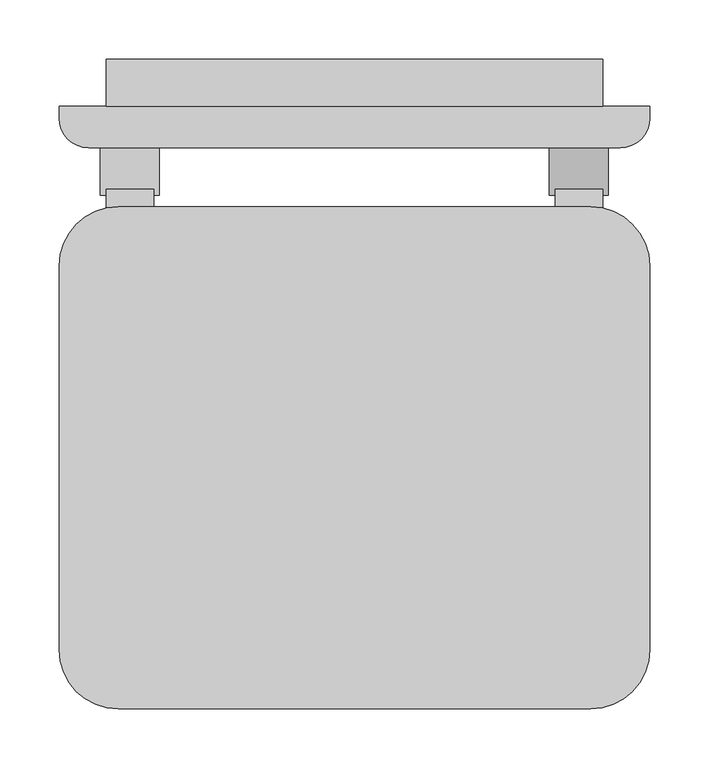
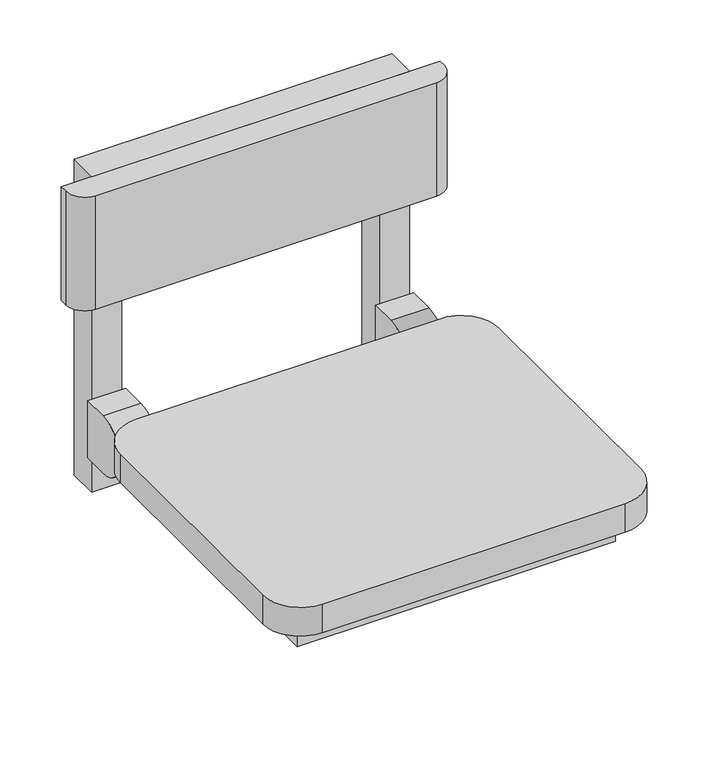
"""IFC4 building model written with IfcOpenShell, lengths in millimetres: proxy geometry, BIMHealth-Seat_Shower-LOD2A-v1 : BIMHealth-Seat_Shower-LOD2A-v1."""

import ifcopenshell
import ifcopenshell.guid

model = None  # the IFC model being written
_history = None  # IfcOwnerHistory: only IFC2X3 demands one
_inside = {}  # id of a spatial element -> (the spatial element, [elements in it])
_under = {}  # id of a project, library or spatial element -> (it, [spatial elements below it])
_declared = {}  # id of a project -> (the project, [libraries it declares])
_typed = {}  # id of a type object -> (the type object, [elements of that type])
_made_of = {}  # id of a material, layer set ... -> (it, [elements and type objects made of it])


def new_model(schema):
    """Start an empty IFC model of exactly this schema.

    Asked for "IFC4X3", IfcOpenShell would pick the latest addendum, in which some entities
    have other attributes; the version numbers below select the first issue.
    IFC2X3 requires an IfcOwnerHistory on every rooted entity: one is made here for all.
    """
    global model, _history
    if schema == "IFC4X3":
        model = ifcopenshell.file(schema_version=(4, 3, 0, 0))
    else:
        model = ifcopenshell.file(schema=schema)
    _inside.clear()
    _under.clear()
    _declared.clear()
    _typed.clear()
    _made_of.clear()
    _history = None
    if model.schema == "IFC2X3":
        org = make("IfcOrganization", Name="unknown")
        user = make(
            "IfcPersonAndOrganization",
            ThePerson=make("IfcPerson", FamilyName="unknown"),
            TheOrganization=org,
        )
        app = make(
            "IfcApplication",
            ApplicationDeveloper=org,
            Version="unknown",
            ApplicationFullName="unknown",
            ApplicationIdentifier="unknown",
        )
        _history = make(
            "IfcOwnerHistory",
            OwningUser=user,
            OwningApplication=app,
            ChangeAction="ADDED",
            CreationDate=0,
        )
    return model


def make(cls, **values):
    """One entity of the class cls with the attributes given. An attribute that is None is left unset."""
    return model.create_entity(
        cls, **{name: value for name, value in values.items() if value is not None}
    )


def rooted(cls, **values):
    """An entity with a GlobalId (a new one), such as an element, a storey or a relation."""
    return make(cls, GlobalId=ifcopenshell.guid.new(), OwnerHistory=_history, **values)


def si_unit(unit_type, name, prefix=None):
    """IfcSIUnit, for example si_unit("LENGTHUNIT", "METRE", prefix="MILLI")."""
    return make("IfcSIUnit", UnitType=unit_type, Prefix=prefix, Name=name)


def assignment(units):
    """IfcUnitAssignment: the units of a project."""
    return None if units is None else make("IfcUnitAssignment", Units=units)


def point(xyz):
    """IfcCartesianPoint."""
    return None if xyz is None else make("IfcCartesianPoint", Coordinates=xyz)


def direction(xyz):
    """IfcDirection."""
    return None if xyz is None else make("IfcDirection", DirectionRatios=xyz)


def frame(location, z_axis=None, x_axis=None):
    """IfcAxis2Placement3D, a coordinate frame: its origin and axes. An axis left out is left unset."""
    return make(
        "IfcAxis2Placement3D",
        Location=point(location),
        Axis=direction(z_axis),
        RefDirection=direction(x_axis),
    )


def frame_2d(location, x_axis=None):
    """IfcAxis2Placement2D, a coordinate frame in the plane: its origin and x axis."""
    return make(
        "IfcAxis2Placement2D", Location=point(location), RefDirection=direction(x_axis)
    )


def origin():
    """The frame at (0, 0, 0) with its axes left unset."""
    return frame((0.0, 0.0, 0.0))


def place(relative_to, where):
    """IfcLocalPlacement: puts the frame where relative to a parent placement (None: the world)."""
    return make(
        "IfcLocalPlacement", PlacementRelTo=relative_to, RelativePlacement=where
    )


def context(
    kind, dimensions, precision=None, world=None, true_north=None, identifier=None
):
    """IfcGeometricRepresentationContext, for example the 3D "Model" context."""
    return make(
        "IfcGeometricRepresentationContext",
        ContextIdentifier=identifier,
        ContextType=kind,
        CoordinateSpaceDimension=dimensions,
        Precision=precision,
        WorldCoordinateSystem=world,
        TrueNorth=true_north,
    )


def project(units=None, contexts=None):
    """IfcProject with its units and contexts."""
    return rooted(
        "IfcProject",
        Name="project",
        RepresentationContexts=contexts,
        UnitsInContext=assignment(units),
    )


def spatial(cls, under=None, at=None, **own):
    """A site, building, storey or space (cls), placed at a placement, below another one or the project."""
    s = rooted(cls, ObjectPlacement=at, **own)
    if under is not None:
        _under.setdefault(under.id(), (under, []))[1].append(s)
    return s


def polyline(points):
    """IfcPolyline through the points."""
    return make("IfcPolyline", Points=[point(p) for p in points])


def circle_curve(where, radius):
    """IfcCircle in the frame where."""
    return make("IfcCircle", Position=where, Radius=radius)


def trimmed(basis, trim1, trim2, sense, master):
    """IfcTrimmedCurve: the piece of a basis curve between two trims."""
    return make(
        "IfcTrimmedCurve",
        BasisCurve=basis,
        Trim1=trim1,
        Trim2=trim2,
        SenseAgreement=sense,
        MasterRepresentation=master,
    )


def segment(curve, same_sense, transition):
    """IfcCompositeCurveSegment."""
    return make(
        "IfcCompositeCurveSegment",
        Transition=transition,
        SameSense=same_sense,
        ParentCurve=curve,
    )


def composite_curve(segments, self_intersect=None):
    """IfcCompositeCurve: segments joined end to end."""
    return make("IfcCompositeCurve", Segments=segments, SelfIntersect=self_intersect)


def outline(outer, holes=None, kind="AREA"):
    """IfcArbitraryClosedProfileDef: a profile drawn as a closed curve; with holes, ...WithVoids."""
    if holes is None:
        return make("IfcArbitraryClosedProfileDef", ProfileType=kind, OuterCurve=outer)
    return make(
        "IfcArbitraryProfileDefWithVoids",
        ProfileType=kind,
        OuterCurve=outer,
        InnerCurves=holes,
    )


def extrude(swept, where, along, depth):
    """IfcExtrudedAreaSolid: the profile swept, set in the frame where, extruded along a direction by depth."""
    return make(
        "IfcExtrudedAreaSolid",
        SweptArea=swept,
        Position=where,
        ExtrudedDirection=direction(along),
        Depth=depth,
    )


def faces_of(points, faces, orient=None, outer=None):
    """IfcFace entities. A face is a list of loops; a loop is a list of indices into points, from 0.

    orient and outer hold one flag for each loop. By default every Orientation is true, the
    first loop of a face is its IfcFaceOuterBound and the others are IfcFaceBound.
    """
    made = []
    for i, loops in enumerate(faces):
        bounds = []
        for j, loop in enumerate(loops):
            is_outer = j == 0 if outer is None else outer[i][j]
            bounds.append(
                make(
                    "IfcFaceOuterBound" if is_outer else "IfcFaceBound",
                    Bound=make("IfcPolyLoop", Polygon=[points[k] for k in loop]),
                    Orientation=True if orient is None else orient[i][j],
                )
            )
        made.append(make("IfcFace", Bounds=bounds))
    return made


def faceted_brep(points, faces, orient=None, outer=None, voids=None):
    """IfcFacetedBrep: a solid bounded by flat faces; with voids (closed shells), ...WithVoids."""
    shared = [point(p) for p in points]
    hull = make("IfcClosedShell", CfsFaces=faces_of(shared, faces, orient, outer))
    if voids is None:
        return make("IfcFacetedBrep", Outer=hull)
    return make(
        "IfcFacetedBrepWithVoids",
        Outer=hull,
        Voids=[
            make(cls, CfsFaces=faces_of(shared, fs, o, b)) for cls, fs, o, b in voids
        ],
    )


def shape(context_of_items, identifier, shape_type, items):
    """IfcShapeRepresentation: the items that make up one representation, for example the "Body"."""
    return make(
        "IfcShapeRepresentation",
        ContextOfItems=context_of_items,
        RepresentationIdentifier=identifier,
        RepresentationType=shape_type,
        Items=items,
    )


def source(mapping_origin, context_of_items, identifier, shape_type, items):
    """IfcRepresentationMap: a shape defined once, which mapped items show again and again."""
    return make(
        "IfcRepresentationMap",
        MappingOrigin=mapping_origin,
        MappedRepresentation=shape(context_of_items, identifier, shape_type, items),
    )


def transform(
    local_origin,
    x_axis=None,
    y_axis=None,
    z_axis=None,
    scale=None,
    scale2=None,
    scale3=None,
    uniform=True,
):
    """IfcCartesianTransformationOperator3D, or its non-uniform kind. x_axis, y_axis, z_axis: its Axis1, 2, 3."""
    if uniform:
        return make(
            "IfcCartesianTransformationOperator3D",
            Axis1=direction(x_axis),
            Axis2=direction(y_axis),
            LocalOrigin=point(local_origin),
            Scale=scale,
            Axis3=direction(z_axis),
        )
    return make(
        "IfcCartesianTransformationOperator3DnonUniform",
        Axis1=direction(x_axis),
        Axis2=direction(y_axis),
        LocalOrigin=point(local_origin),
        Scale=scale,
        Axis3=direction(z_axis),
        Scale2=scale2,
        Scale3=scale3,
    )


def mapped(mapping_source, mapping_target):
    """IfcMappedItem: shows the shape of a source again, moved by a transform."""
    return make(
        "IfcMappedItem", MappingSource=mapping_source, MappingTarget=mapping_target
    )


def made_of(thing, what):
    """Note that an element or type object is made of a material, layer set ...; save() writes the relation."""
    if what is not None:
        _made_of.setdefault(what.id(), (what, []))[1].append(thing)
    return thing


def element(
    cls,
    number,
    at=None,
    inside=None,
    cuts=None,
    type_object=None,
    material=None,
    context=None,
    identifier="Body",
    shape_type=None,
    held_by="IfcProductDefinitionShape",
    body=None,
    shapes=None,
    **own,
):
    """One element of the class cls, such as IfcWall. Its Tag is "e" and its number.

    at: its placement. inside: the storey or other place that contains it. cuts: it is an
    opening in that element (IfcRelVoidsElement). A single representation is given by context,
    identifier, shape_type and body (its items); several are given by shapes. held_by: the class
    of the entity that holds the representations. save() writes the other relations.
    """
    e = rooted(cls, Tag="e%d" % number, ObjectPlacement=at, **own)
    if body is not None:
        shapes = [shape(context, identifier, shape_type, body)]
    if shapes is not None:
        e.Representation = make(held_by, Representations=shapes)
    if inside is not None:
        _inside.setdefault(inside.id(), (inside, []))[1].append(e)
    if cuts is not None:
        rooted(
            "IfcRelVoidsElement", RelatingBuildingElement=cuts, RelatedOpeningElement=e
        )
    if type_object is not None:
        _typed.setdefault(type_object.id(), (type_object, []))[1].append(e)
    return made_of(e, material)


def aggregate(whole, parts):
    """IfcRelAggregates: a whole, such as a stair, and the parts it consists of."""
    return rooted("IfcRelAggregates", RelatingObject=whole, RelatedObjects=parts)


def save(model, path):
    """Write the relations noted so far, then the file.

    IfcRelAggregates (storeys below a building ...), IfcRelContainedInSpatialStructure (elements
    in a storey), IfcRelDefinesByType, IfcRelAssociatesMaterial and IfcRelDeclares: one each for
    every whole, place, type object, material and project.
    """
    for whole, parts in _under.values():
        aggregate(whole, parts)
    for where, things in _inside.values():
        rooted(
            "IfcRelContainedInSpatialStructure",
            RelatedElements=things,
            RelatingStructure=where,
        )
    for kind, things in _typed.values():
        rooted("IfcRelDefinesByType", RelatedObjects=things, RelatingType=kind)
    for what, things in _made_of.values():
        rooted("IfcRelAssociatesMaterial", RelatedObjects=things, RelatingMaterial=what)
    for by, libraries in _declared.values():
        rooted("IfcRelDeclares", RelatingContext=by, RelatedDefinitions=libraries)
    model.write(path)


def generic_models_2748bf89(model_context):
    return source(origin(), model_context, "Body", "SolidModel", [
        extrude(outline(composite_curve([segment(polyline([(-40.0, 500.0), (-40.0, 420.0), (-75.0, 420.0)]), True, "CONTINUOUS"), segment(trimmed(circle_curve(frame_2d((-75.0, 460.0)), 40.0), [point((-75.0, 420.0))], [point((-75.0, 500.0))], False, "CARTESIAN"), True, "CONTINUOUS"), segment(polyline([(-75.0, 500.0), (-40.0, 500.0)]), True, "CONTINUOUS")], self_intersect=False)), frame((415.0, 0.0, 0.0), z_axis=(1.0, 0.0, 0.0), x_axis=(0.0, 1.0, 0.0)), (0.0, 0.0, 1.0), 50.0),
        extrude(outline(composite_curve([segment(polyline([(-40.0, 500.0), (-40.0, 420.0), (-75.0, 420.0)]), True, "CONTINUOUS"), segment(trimmed(circle_curve(frame_2d((-75.0, 460.0)), 40.0), [point((-75.0, 420.0))], [point((-75.0, 500.0))], False, "CARTESIAN"), True, "CONTINUOUS"), segment(polyline([(-75.0, 500.0), (-40.0, 500.0)]), True, "CONTINUOUS")], self_intersect=False)), frame((35.0, 0.0, 0.0), z_axis=(1.0, 0.0, 0.0), x_axis=(0.0, 1.0, 0.0)), (0.0, 0.0, 1.0), 50.0),
        faceted_brep([(40.0, -510.0, 440.0), (40.0, -75.0, 440.0), (80.0, -75.0, 440.0), (80.0, -165.0, 440.0), (420.0, -165.0, 440.0), (420.0, -40.0, 440.0), (460.0, -40.0, 440.0), (460.0, -510.0, 440.0), (80.0, -470.0, 440.0), (420.0, -470.0, 440.0), (420.0, -205.0, 440.0), (80.0, -205.0, 440.0), (80.0, -75.0, 480.0), (40.0, -75.0, 480.0), (40.0, -510.0, 480.0), (460.0, -510.0, 480.0), (460.0, -40.0, 480.0), (420.0, -40.0, 480.0), (420.0, -165.0, 480.0), (80.0, -165.0, 480.0), (420.0, -470.0, 480.0), (80.0, -470.0, 480.0), (80.0, -205.0, 480.0), (420.0, -205.0, 480.0), (40.0, 0.0, 810.6427919), (40.0, -40.0, 810.6427919), (460.0, -40.0, 810.6427919), (460.0, 0.0, 810.6427919), (80.0, -40.0, 370.0), (40.0, -40.0, 370.0), (40.0, 0.0, 370.0), (80.0, 0.0, 370.0), (80.0, 0.0, 652.2146196), (80.0, -40.0, 652.2146196), (80.0, -40.0, 692.2146196), (80.0, 0.0, 692.2146196), (80.0, 0.0, 770.6427919), (80.0, -40.0, 770.6427919), (460.0, 0.0, 370.0), (420.0, 0.0, 370.0), (420.0, 0.0, 652.2146196), (420.0, 0.0, 692.2146196), (420.0, 0.0, 770.6427919), (420.0, -40.0, 652.2146196), (420.0, -40.0, 770.6427919), (420.0, -40.0, 692.2146196), (420.0, -40.0, 370.0), (460.0, -40.0, 370.0)], [[[0, 1, 2, 3, 4, 5, 6, 7], [8, 9, 10, 11]], [[12, 13, 14, 15, 16, 17, 18, 19], [20, 21, 22, 23]], [[2, 12, 19, 3]], [[21, 8, 11, 22]], [[2, 1, 13, 12]], [[1, 0, 14, 13]], [[14, 0, 7, 15]], [[24, 25, 26, 27]], [[28, 29, 30, 31]], [[28, 31, 32, 33]], [[34, 35, 36, 37]], [[24, 27, 38, 39, 40, 32, 31, 30], [41, 42, 36, 35]], [[25, 24, 30, 29]], [[26, 25, 29, 28, 33, 43, 17, 16], [34, 37, 44, 45]], [[46, 47, 6, 5]], [[41, 35, 34, 45]], [[43, 33, 32, 40]], [[46, 39, 38, 47]], [[41, 45, 44, 42]], [[39, 46, 5, 4, 18, 17, 43, 40]], [[9, 20, 23, 10]], [[27, 26, 16, 15, 7, 6, 47, 38]], [[9, 8, 21, 20]], [[4, 3, 19, 18]], [[11, 10, 23, 22]], [[44, 37, 36, 42]]]),
        extrude(outline(composite_curve([segment(trimmed(circle_curve(frame_2d((450.0, -175.0)), 50.0), [point((450.0, -125.0))], [point((500.0, -175.0))], False, "CARTESIAN"), True, "CONTINUOUS"), segment(polyline([(500.0, -175.0), (500.0, -500.0)]), True, "CONTINUOUS"), segment(trimmed(circle_curve(frame_2d((450.0, -500.0)), 50.0), [point((500.0, -500.0))], [point((450.0, -550.0))], False, "CARTESIAN"), True, "CONTINUOUS"), segment(polyline([(450.0, -550.0), (50.0, -550.0)]), True, "CONTINUOUS"), segment(trimmed(circle_curve(frame_2d((50.0, -500.0)), 50.0), [point((50.0, -550.0))], [point((0.0, -500.0))], False, "CARTESIAN"), True, "CONTINUOUS"), segment(polyline([(0.0, -500.0), (0.0, -175.0)]), True, "CONTINUOUS"), segment(trimmed(circle_curve(frame_2d((50.0, -175.0)), 50.0), [point((0.0, -175.0))], [point((50.0, -125.0))], False, "CARTESIAN"), True, "CONTINUOUS"), segment(polyline([(50.0, -125.0), (450.0, -125.0)]), True, "CONTINUOUS")], self_intersect=False)), frame((0.0, 0.0, 480.0), z_axis=(0.0, 0.0, 1.0), x_axis=(1.0, 0.0, 0.0)), (0.0, 0.0, 1.0), 40.0),
        extrude(outline(composite_curve([segment(polyline([(475.0, -75.0), (25.0, -75.0)]), True, "CONTINUOUS"), segment(trimmed(circle_curve(frame_2d((25.0, -50.0)), 25.0), [point((25.0, -75.0))], [point((0.0, -50.0))], False, "CARTESIAN"), True, "CONTINUOUS"), segment(polyline([(0.0, -50.0), (0.0, -40.0), (500.0, -40.0), (500.0, -50.0)]), True, "CONTINUOUS"), segment(trimmed(circle_curve(frame_2d((475.0, -50.0)), 25.0), [point((500.0, -50.0))], [point((475.0, -75.0))], False, "CARTESIAN"), True, "CONTINUOUS")], self_intersect=False)), frame((0.0, 0.0, 652.2146196), z_axis=(0.0, 0.0, 1.0), x_axis=(1.0, 0.0, 0.0)), (0.0, 0.0, 1.0), 158.4281723),
    ])


if __name__ == "__main__":
    model = new_model("IFC4")
    model_context = context("Model", 3, world=origin())
    ifc_project = project(units=[si_unit("LENGTHUNIT", "METRE", prefix="MILLI")], contexts=[model_context])
    site = spatial("IfcSite", under=ifc_project)
    building = spatial("IfcBuilding", under=site)
    placement = place(None, origin())
    generic_models_shape = generic_models_2748bf89(model_context)
    element("IfcBuildingElementProxy", 1, Name="BIMHealth-Seat_Shower-LOD2A-v1 : BIMHealth-Seat_Shower-LOD2A-v1", ObjectType="BIMHealth-Seat_Shower-LOD2A-v1 : BIMHealth-Seat_Shower-LOD2A-v1", at=placement, inside=building, context=model_context, shape_type="MappedRepresentation", body=[
        mapped(generic_models_shape, transform((0.0, 0.0, 0.0), x_axis=(1.0, 0.0, 0.0), y_axis=(0.0, 1.0, 0.0), z_axis=(0.0, 0.0, 1.0))),
    ])
    save(model, "model.ifc")
